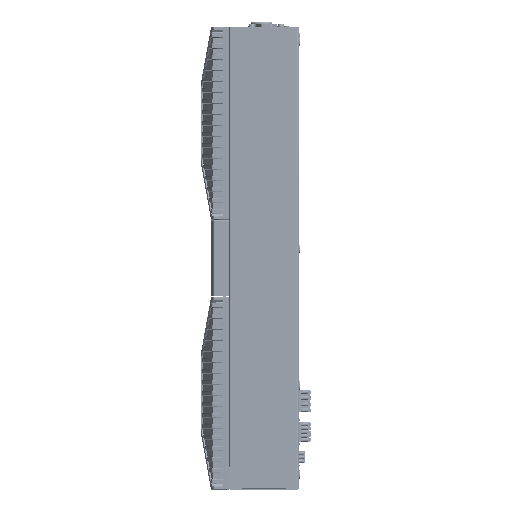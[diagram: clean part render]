
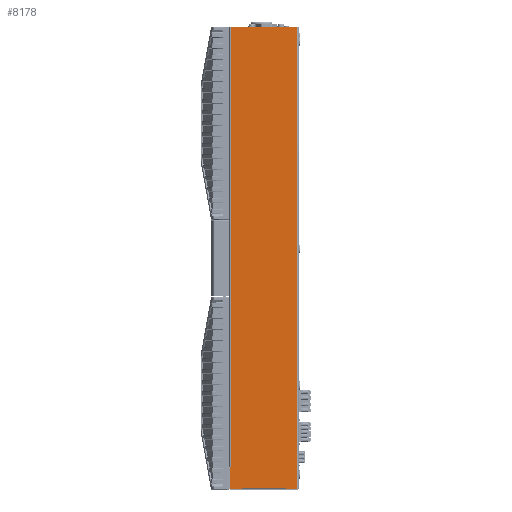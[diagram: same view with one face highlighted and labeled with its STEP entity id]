
A CAD part, left-side view. The second image highlights one B-rep face of the part: STEP entity #8178.
In plain terms, the highlighted planar face has unit normal (-1, 0, 0).
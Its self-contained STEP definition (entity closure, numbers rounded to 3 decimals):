
#294=DIRECTION('',(0.,0.5,-0.866));
#295=VECTOR('',#294,2.309);
#296=CARTESIAN_POINT('',(-125.,73.,-297.));
#297=LINE('',#296,#295);
#298=DIRECTION('',(0.,1.,0.));
#299=VECTOR('',#298,13.345);
#300=CARTESIAN_POINT('',(-125.,74.155,-299.));
#301=LINE('',#300,#299);
#302=CARTESIAN_POINT('',(-125.,87.5,-297.5));
#303=DIRECTION('',(1.,0.,0.));
#304=DIRECTION('',(0.,0.,-1.));
#305=AXIS2_PLACEMENT_3D('',#302,#303,#304);
#307=DIRECTION('',(0.,0.,1.));
#308=VECTOR('',#307,26.923);
#309=CARTESIAN_POINT('',(-125.,89.,-297.5));
#310=LINE('',#309,#308);
#311=DIRECTION('',(0.,-0.866,0.5));
#312=VECTOR('',#311,1.155);
#313=CARTESIAN_POINT('',(-125.,89.,-270.577));
#314=LINE('',#313,#312);
#315=DIRECTION('',(0.,1.,0.));
#316=VECTOR('',#315,13.845);
#317=CARTESIAN_POINT('',(-125.,2.,-299.));
#318=LINE('',#317,#316);
#319=DIRECTION('',(0.,0.5,0.866));
#320=VECTOR('',#319,2.309);
#321=CARTESIAN_POINT('',(-125.,15.845,-299.));
#322=LINE('',#321,#320);
#337=DIRECTION('',(0.,-1.,0.));
#338=VECTOR('',#337,56.);
#339=CARTESIAN_POINT('',(-125.,73.,-297.));
#340=LINE('',#339,#338);
#3416=DIRECTION('',(0.,1.,0.));
#3417=VECTOR('',#3416,86.);
#3418=CARTESIAN_POINT('',(-125.,2.,300.));
#3419=LINE('',#3418,#3417);
#3438=DIRECTION('',(0.,0.,-1.));
#3439=VECTOR('',#3438,570.);
#3440=CARTESIAN_POINT('',(-125.,88.,300.));
#3441=LINE('',#3440,#3439);
#3821=DIRECTION('',(0.,0.,1.));
#3822=VECTOR('',#3821,599.);
#3823=CARTESIAN_POINT('',(-125.,2.,-299.));
#3824=LINE('',#3823,#3822);
#6133=CARTESIAN_POINT('',(-125.,88.,-270.));
#6135=VERTEX_POINT('',#6133);
#6137=CARTESIAN_POINT('',(-125.,89.,-270.577));
#6138=VERTEX_POINT('',#6137);
#6141=CARTESIAN_POINT('',(-125.,73.,-297.));
#6142=CARTESIAN_POINT('',(-125.,74.155,-299.));
#6143=VERTEX_POINT('',#6141);
#6144=VERTEX_POINT('',#6142);
#6145=CARTESIAN_POINT('',(-125.,87.5,-299.));
#6146=VERTEX_POINT('',#6145);
#6147=CARTESIAN_POINT('',(-125.,89.,-297.5));
#6148=VERTEX_POINT('',#6147);
#6149=CARTESIAN_POINT('',(-125.,88.,300.));
#6150=VERTEX_POINT('',#6149);
#6151=CARTESIAN_POINT('',(-125.,2.,300.));
#6152=VERTEX_POINT('',#6151);
#6153=CARTESIAN_POINT('',(-125.,2.,-299.));
#6154=VERTEX_POINT('',#6153);
#6155=CARTESIAN_POINT('',(-125.,15.845,-299.));
#6156=VERTEX_POINT('',#6155);
#6157=CARTESIAN_POINT('',(-125.,17.,-297.));
#6158=VERTEX_POINT('',#6157);
#8150=CARTESIAN_POINT('',(-125.,90.,-298.));
#8151=DIRECTION('',(-1.,0.,0.));
#8152=DIRECTION('',(0.,-1.,0.));
#8153=AXIS2_PLACEMENT_3D('',#8150,#8151,#8152);
#8154=PLANE('',#8153);
#8156=ORIENTED_EDGE('',*,*,#8155,.T.);
#8158=ORIENTED_EDGE('',*,*,#8157,.T.);
#8160=ORIENTED_EDGE('',*,*,#8159,.T.);
#8162=ORIENTED_EDGE('',*,*,#8161,.T.);
#8163=ORIENTED_EDGE('',*,*,#8140,.T.);
#8165=ORIENTED_EDGE('',*,*,#8164,.F.);
#8167=ORIENTED_EDGE('',*,*,#8166,.F.);
#8169=ORIENTED_EDGE('',*,*,#8168,.F.);
#8171=ORIENTED_EDGE('',*,*,#8170,.T.);
#8173=ORIENTED_EDGE('',*,*,#8172,.T.);
#8175=ORIENTED_EDGE('',*,*,#8174,.F.);
#8176=EDGE_LOOP('',(#8156,#8158,#8160,#8162,#8163,#8165,#8167,#8169,#8171,#8173,
#8175));
#8177=FACE_OUTER_BOUND('',#8176,.F.);
#8178=ADVANCED_FACE('',(#8177),#8154,.T.);
#306=CIRCLE('',#305,1.5);
#8140=EDGE_CURVE('',#6138,#6135,#314,.T.);
#8155=EDGE_CURVE('',#6143,#6144,#297,.T.);
#8157=EDGE_CURVE('',#6144,#6146,#301,.T.);
#8159=EDGE_CURVE('',#6146,#6148,#306,.T.);
#8161=EDGE_CURVE('',#6148,#6138,#310,.T.);
#8164=EDGE_CURVE('',#6150,#6135,#3441,.T.);
#8166=EDGE_CURVE('',#6152,#6150,#3419,.T.);
#8168=EDGE_CURVE('',#6154,#6152,#3824,.T.);
#8170=EDGE_CURVE('',#6154,#6156,#318,.T.);
#8172=EDGE_CURVE('',#6156,#6158,#322,.T.);
#8174=EDGE_CURVE('',#6143,#6158,#340,.T.);
